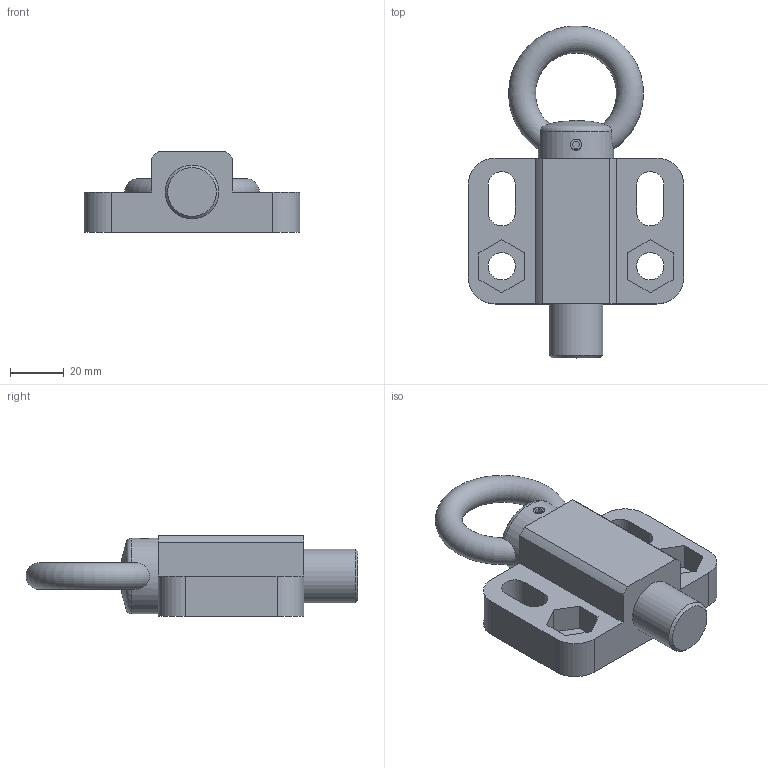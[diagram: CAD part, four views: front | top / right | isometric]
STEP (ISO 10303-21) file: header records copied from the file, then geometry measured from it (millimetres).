
FILE_DESCRIPTION(/* description */ ('STEP AP214'),/* implementation_level */ '2;1');
FILE_NAME(/* name */ 'Indexing plunger GN 722.6-20-30-A-SW (deactivated)',/* time_stamp */ '2023-02-28T07:38:35+01:00',/* author */ ('License CC BY-ND 4.0'),/* organization */ ('CADENAS'),/* preprocessor_version */ 'ST-DEVELOPER v18.102',/* originating_system */ 'PARTsolutions',/* authorisation */ ' ');
FILE_SCHEMA (('AUTOMOTIVE_DESIGN {1 0 10303 214 3 1 1}'));
Length unit declared in the file: millimetre
Products named in the file (3): Indexing plunger GN 722.6-20-30-A-SW (deactivated); Indexing plunger GN 722.6-20-30-A-SW (deactivated)-2; Indexing plunger GN 722.6-20-30-A-SW (deactivated)-1
Assembly tree (2 placements, depth 2):
  Indexing plunger GN 722.6-20-30-A-SW (deactivated)
    Indexing plunger GN 722.6-20-30-A-SW (deactivated)-2
    Indexing plunger GN 722.6-20-30-A-SW (deactivated)-1
Bounding box: 80 x 122.99 x 30 mm (x, y, z)
Volume: 96563.2 mm3; surface area: 29501.9 mm2
Topology: 2 solids, 2 shells, 68 faces, 170 edges, 112 vertices
Faces by surface type: plane 42, cylinder 20, torus 3, cone 2, sphere 1
Full cylindrical faces by diameter (mm): 4.2 x1, 10.1 x2, 20 x4, 22 x2, 28 x1
Entity records: 2069 total; most frequent: CARTESIAN_POINT 391, DIRECTION 330, ORIENTED_EDGE 306, EDGE_CURVE 153, AXIS2_PLACEMENT_3D 115, VERTEX_POINT 109, LINE 100, VECTOR 100
